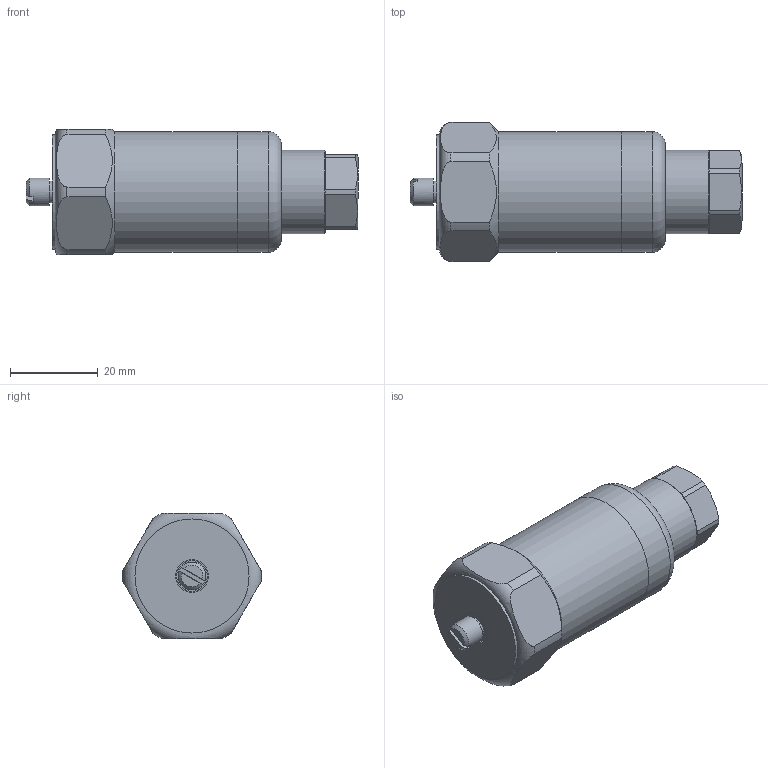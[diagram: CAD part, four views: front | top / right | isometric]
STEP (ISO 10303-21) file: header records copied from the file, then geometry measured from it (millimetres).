
FILE_DESCRIPTION(/* description */ (''),/* implementation_level */ '2;1');
FILE_NAME(/* name */ 'Z:\Engineering\Drawings\3D Library\Assemblies\Website\420 Velocity\HS-420XXX0102.stp',/* time_stamp */ '2023-05-03T13:44:04+01:00',/* author */ ('Ricardo.Peneda'),/* organization */ (''),/* preprocessor_version */ 'ST-DEVELOPER v18.1',/* originating_system */ 'Autodesk Inventor 2021',/* authorisation */ '');
FILE_SCHEMA (('AUTOMOTIVE_DESIGN { 1 0 10303 214 3 1 1 }'));
Length unit declared in the file: inch
Products named in the file (1): HS-420XXX0102_Shrinkwrap_1
Bounding box: 75.68 x 31.69 x 28.5 mm (x, y, z)
Volume: 17425.6 mm3; surface area: 13263.1 mm2
Topology: 4 solids, 4 shells, 90 faces, 240 edges, 173 vertices
Faces by surface type: plane 43, cylinder 34, cone 10, torus 3
Full cylindrical faces by diameter (mm): 4.914 x2, 6.3 x1, 6.34 x2, 7.027 x1, 7.5 x1, 9 x1, 11.647 x1, 12 x1, 13.882 x1, 14 x1, 15 x2, 18 x1, 19 x1, 20 x1, 25.3 x2, 26 x1, 27.5 x2
Entity records: 3193 total; most frequent: CARTESIAN_POINT 696, DIRECTION 532, ORIENTED_EDGE 480, EDGE_CURVE 240, AXIS2_PLACEMENT_3D 229, VERTEX_POINT 173, CIRCLE 138, EDGE_LOOP 109
